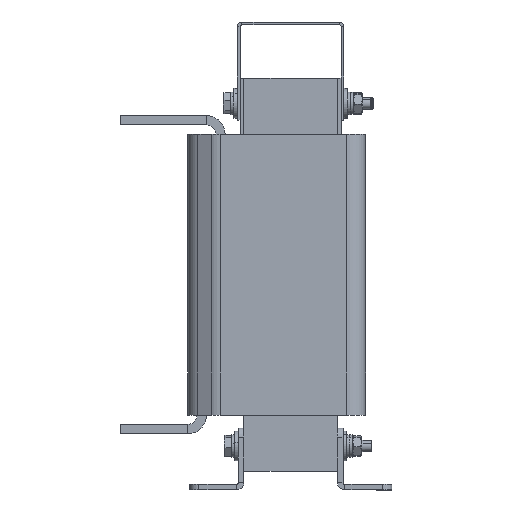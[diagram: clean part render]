
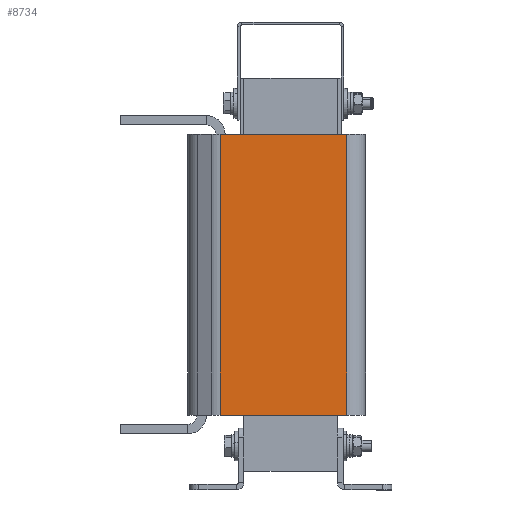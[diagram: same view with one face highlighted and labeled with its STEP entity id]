
A CAD part, left-side view. The second image highlights one B-rep face of the part: STEP entity #8734.
In plain terms, the highlighted planar face has unit normal (-1, 0, 0).
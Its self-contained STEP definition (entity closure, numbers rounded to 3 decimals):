
#90 = CARTESIAN_POINT ( 'NONE',  ( -30., -30., 0. ) ) ;
#286 = DIRECTION ( 'NONE',  ( -1., 0., 0. ) ) ;
#941 = CARTESIAN_POINT ( 'NONE',  ( -30., 40., -150. ) ) ;
#978 = DIRECTION ( 'NONE',  ( 0., 0., 1. ) ) ;
#1164 = ORIENTED_EDGE ( 'NONE', *, *, #6523, .F. ) ;
#1370 = VERTEX_POINT ( 'NONE', #6879 ) ;
#1601 = VERTEX_POINT ( 'NONE', #1887 ) ;
#1887 = CARTESIAN_POINT ( 'NONE',  ( -30., -30., -150. ) ) ;
#2280 = ORIENTED_EDGE ( 'NONE', *, *, #7615, .T. ) ;
#2311 = VECTOR ( 'NONE', #978, 1000. ) ;
#2520 = PLANE ( 'NONE',  #3838 ) ;
#2756 = CARTESIAN_POINT ( 'NONE',  ( -30., 37.569, -150. ) ) ;
#3216 = ORIENTED_EDGE ( 'NONE', *, *, #4754, .T. ) ;
#3452 = CARTESIAN_POINT ( 'NONE',  ( -30., 37.569, -150. ) ) ;
#3503 = VERTEX_POINT ( 'NONE', #90 ) ;
#3838 = AXIS2_PLACEMENT_3D ( 'NONE', #941, #286, #5537 ) ;
#3976 = DIRECTION ( 'NONE',  ( 0., -1., 0. ) ) ;
#3999 = LINE ( 'NONE', #8520, #2311 ) ;
#4754 = EDGE_CURVE ( 'NONE', #7969, #1601, #9196, .T. ) ;
#5434 = DIRECTION ( 'NONE',  ( 0., -1., 0. ) ) ;
#5537 = DIRECTION ( 'NONE',  ( 0., 0., 1. ) ) ;
#5541 = EDGE_LOOP ( 'NONE', ( #3216, #2280, #1164, #8098 ) ) ;
#5558 = VECTOR ( 'NONE', #3976, 1000. ) ;
#5715 = DIRECTION ( 'NONE',  ( 0., 0., -1. ) ) ;
#6010 = VECTOR ( 'NONE', #5434, 1000. ) ;
#6177 = CARTESIAN_POINT ( 'NONE',  ( -30., 40., -150. ) ) ;
#6523 = EDGE_CURVE ( 'NONE', #1370, #3503, #7802, .T. ) ;
#6879 = CARTESIAN_POINT ( 'NONE',  ( -30., 37.569, 0. ) ) ;
#7282 = LINE ( 'NONE', #2756, #8830 ) ;
#7615 = EDGE_CURVE ( 'NONE', #1601, #3503, #3999, .T. ) ;
#7802 = LINE ( 'NONE', #8451, #5558 ) ;
#7969 = VERTEX_POINT ( 'NONE', #3452 ) ;
#8098 = ORIENTED_EDGE ( 'NONE', *, *, #9594, .T. ) ;
#8451 = CARTESIAN_POINT ( 'NONE',  ( -30., 40., 0. ) ) ;
#8520 = CARTESIAN_POINT ( 'NONE',  ( -30., -30., -150. ) ) ;
#8734 = ADVANCED_FACE ( 'NONE', ( #9237 ), #2520, .T. ) ;
#8830 = VECTOR ( 'NONE', #5715, 1000. ) ;
#9196 = LINE ( 'NONE', #6177, #6010 ) ;
#9237 = FACE_OUTER_BOUND ( 'NONE', #5541, .T. ) ;
#9594 = EDGE_CURVE ( 'NONE', #1370, #7969, #7282, .T. ) ;
